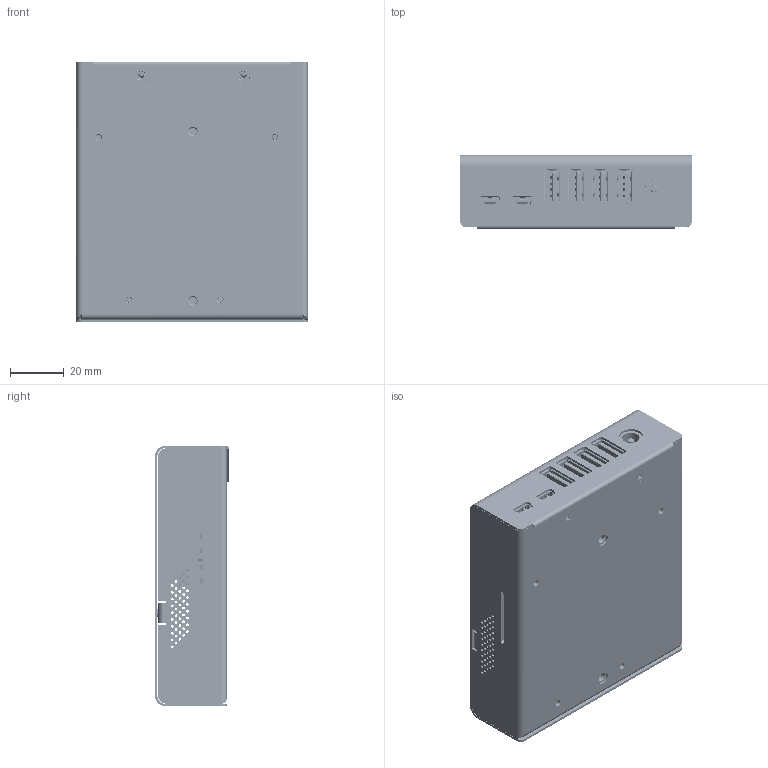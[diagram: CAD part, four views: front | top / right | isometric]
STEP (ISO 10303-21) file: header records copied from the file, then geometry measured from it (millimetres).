
FILE_DESCRIPTION (( 'STEP AP214' ), '1' );
FILE_NAME ('S77-USBHUB-2X4.STEP', '2015-10-16T15:03:52', ( '' ), ( '' ), 'SwSTEP 2.0', 'SolidWorks 2016', '' );
FILE_SCHEMA (( 'AUTOMOTIVE_DESIGN' ));
Length unit declared in the file: millimetre
Products named in the file (21): sheet metal bottom w pem; LED_0603_Green; PCONN00016; sheet metal top; PCONN00114; PMISC00003; SMPS-M2.5; 92095A456_92095A456; S M3.5 0ZI; 91698A240_91698A240; LED_0603_Yellow; PPCBS00070_RevisionB; 1734035-2; S77-USBHUB-2X4; S75-USBHUB-2X4_NoFan; MIC45212_Copper; TS04 6M25 600; sheet metal bottom; LQFP100; PBULD00058_RevisionB_Falcon; 282836-2
Assembly tree (56 placements, depth 4):
  S77-USBHUB-2X4
    S75-USBHUB-2X4_NoFan
      PBULD00058_RevisionB_Falcon
        PPCBS00070_RevisionB
        PCONN00114  x4
        PCONN00016
        PMISC00003
        MIC45212_Copper
        LQFP100
        1734035-2  x2
        LED_0603_Yellow  x14
        282836-2  x2
        LED_0603_Green  x4
    sheet metal bottom w pem
      sheet metal bottom
      TS04 6M25 600  x4
      S M3.5 0ZI  x4
      SMPS-M2.5  x4
    sheet metal top
    91698A240_91698A240  x4
    92095A456_92095A456  x4
Bounding box: 86.23 x 27.62 x 97.1 mm (x, y, z)
Volume: 51941.3 mm3; surface area: 86513.4 mm2
Topology: 52 solids, 55 shells, 6020 faces, 16771 edges, 10970 vertices
Faces by surface type: plane 3427, cylinder 2323, cone 206, bspline 56, sphere 8
Entity records: 136467 total; most frequent: CARTESIAN_POINT 23213, DIRECTION 19663, ORIENTED_EDGE 19568, EDGE_CURVE 9800, AXIS2_PLACEMENT_3D 6572, VECTOR 6519, LINE 6519, VERTEX_POINT 6456
